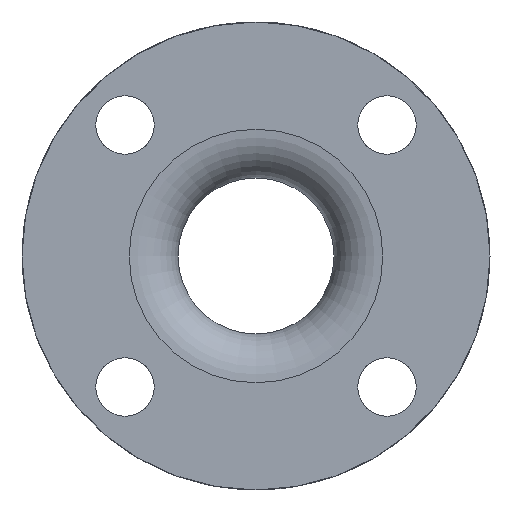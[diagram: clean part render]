
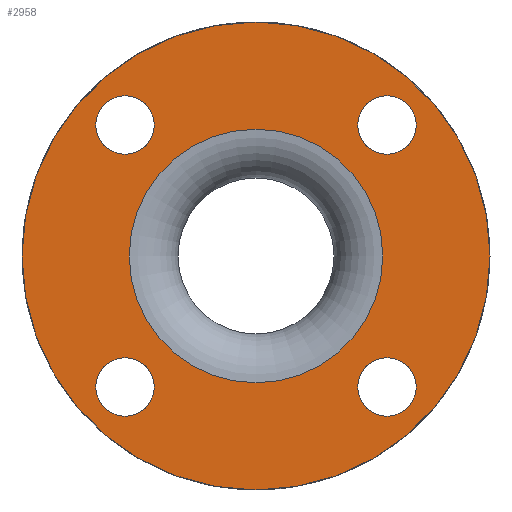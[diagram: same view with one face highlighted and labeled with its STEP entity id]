
A CAD part, front view. The second image highlights one B-rep face of the part: STEP entity #2958.
In plain terms, the highlighted planar face has unit normal (0, -1, 0).
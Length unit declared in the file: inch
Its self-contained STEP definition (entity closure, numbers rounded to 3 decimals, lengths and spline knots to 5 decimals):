
#88=FACE_BOUND('',#506,.T.);
#89=FACE_BOUND('',#507,.T.);
#90=FACE_BOUND('',#508,.T.);
#91=FACE_BOUND('',#509,.T.);
#92=FACE_BOUND('',#510,.T.);
#299=FACE_OUTER_BOUND('',#505,.T.);
#505=EDGE_LOOP('',(#2268));
#506=EDGE_LOOP('',(#2269));
#507=EDGE_LOOP('',(#2270));
#508=EDGE_LOOP('',(#2271));
#509=EDGE_LOOP('',(#2272));
#510=EDGE_LOOP('',(#2273));
#1030=CIRCLE('',#3213,0.375);
#1032=CIRCLE('',#3216,0.375);
#1034=CIRCLE('',#3219,0.375);
#1036=CIRCLE('',#3222,0.375);
#1049=CIRCLE('',#3248,3.);
#1050=CIRCLE('',#3250,1.625);
#1287=VERTEX_POINT('',#4879);
#1289=VERTEX_POINT('',#4884);
#1291=VERTEX_POINT('',#4889);
#1293=VERTEX_POINT('',#4894);
#1306=VERTEX_POINT('',#4933);
#1307=VERTEX_POINT('',#4936);
#1633=EDGE_CURVE('',#1287,#1287,#1030,.T.);
#1635=EDGE_CURVE('',#1289,#1289,#1032,.T.);
#1637=EDGE_CURVE('',#1291,#1291,#1034,.T.);
#1639=EDGE_CURVE('',#1293,#1293,#1036,.T.);
#1652=EDGE_CURVE('',#1306,#1306,#1049,.T.);
#1653=EDGE_CURVE('',#1307,#1307,#1050,.T.);
#2268=ORIENTED_EDGE('',*,*,#1652,.T.);
#2269=ORIENTED_EDGE('',*,*,#1633,.T.);
#2270=ORIENTED_EDGE('',*,*,#1635,.T.);
#2271=ORIENTED_EDGE('',*,*,#1637,.T.);
#2272=ORIENTED_EDGE('',*,*,#1639,.T.);
#2273=ORIENTED_EDGE('',*,*,#1653,.F.);
#2682=PLANE('',#3249);
#2958=ADVANCED_FACE('',(#299,#88,#89,#90,#91,#92),#2682,.T.);
#3213=AXIS2_PLACEMENT_3D('',#4880,#3865,#3866);
#3216=AXIS2_PLACEMENT_3D('',#4885,#3871,#3872);
#3219=AXIS2_PLACEMENT_3D('',#4890,#3877,#3878);
#3222=AXIS2_PLACEMENT_3D('',#4895,#3883,#3884);
#3248=AXIS2_PLACEMENT_3D('',#4934,#3935,#3936);
#3249=AXIS2_PLACEMENT_3D('',#4935,#3937,#3938);
#3250=AXIS2_PLACEMENT_3D('',#4937,#3939,#3940);
#3865=DIRECTION('center_axis',(0.,1.,0.));
#3866=DIRECTION('ref_axis',(1.,0.,0.));
#3871=DIRECTION('center_axis',(0.,1.,0.));
#3872=DIRECTION('ref_axis',(0.,0.,
-1.));
#3877=DIRECTION('center_axis',(0.,1.,0.));
#3878=DIRECTION('ref_axis',(-1.,0.,0.));
#3883=DIRECTION('center_axis',(0.,1.,0.));
#3884=DIRECTION('ref_axis',(0.,0.,1.));
#3935=DIRECTION('center_axis',(0.,-1.,0.));
#3936=DIRECTION('ref_axis',(1.,0.,0.));
#3937=DIRECTION('center_axis',(0.,-1.,0.));
#3938=DIRECTION('ref_axis',(0.,0.,-1.));
#3939=DIRECTION('center_axis',(0.,-1.,0.));
#3940=DIRECTION('ref_axis',(1.,0.,0.));
#4879=CARTESIAN_POINT('',(1.30438,-9.,-1.67938));
#4880=CARTESIAN_POINT('Origin',(1.67938,-9.,-1.67938));
#4884=CARTESIAN_POINT('',(-1.67938,-9.,-1.30438));
#4885=CARTESIAN_POINT('Origin',(-1.67938,-9.,-1.67938));
#4889=CARTESIAN_POINT('',(-1.30438,-9.,1.67938));
#4890=CARTESIAN_POINT('Origin',(-1.67938,-9.,1.67938));
#4894=CARTESIAN_POINT('',(1.67938,-9.,1.30438));
#4895=CARTESIAN_POINT('Origin',(1.67938,-9.,1.67938));
#4933=CARTESIAN_POINT('',(3.,-9.,0.));
#4934=CARTESIAN_POINT('Origin',(0.,-9.,0.));
#4935=CARTESIAN_POINT('Origin',(2.3125,-9.,0.));
#4936=CARTESIAN_POINT('',(1.625,-9.,0.));
#4937=CARTESIAN_POINT('Origin',(0.,-9.,0.));
